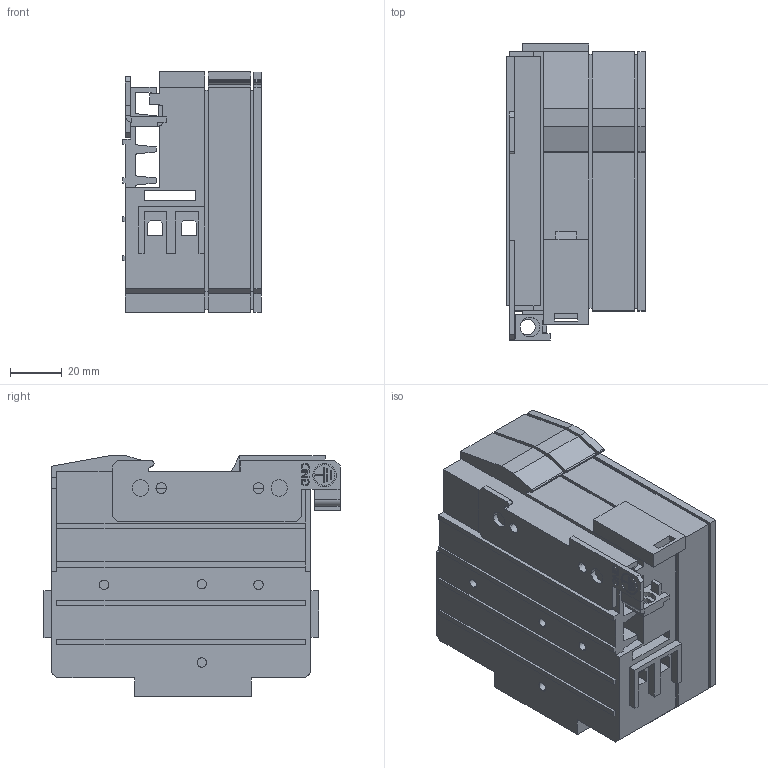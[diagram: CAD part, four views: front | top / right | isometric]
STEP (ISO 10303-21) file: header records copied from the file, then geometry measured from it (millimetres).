
FILE_DESCRIPTION((''),'2;1');
FILE_NAME('TE10_A_16A_IGES2','2012-01-03T',('chrisloe'),(''),'PRO/ENGINEER BY PARAMETRIC TECHNOLOGY CORPORATION, 2010180','PRO/ENGINEER BY PARAMETRIC TECHNOLOGY CORPORATION, 2010180','');
FILE_SCHEMA(('CONFIG_CONTROL_DESIGN'));
Length unit declared in the file: millimetre
Products named in the file (1): TE10_A_16A_IGES2
Bounding box: 53.6 x 114.3 x 92.7 mm (x, y, z)
Volume: 399046.7 mm3; surface area: 66218.5 mm2
Topology: 1 solids, 1 shells, 410 faces, 1130 edges, 743 vertices
Faces by surface type: plane 353, cylinder 49, cone 8
Entity records: 12918 total; most frequent: CARTESIAN_POINT 2283, ORIENTED_EDGE 2260, DIRECTION 2072, EDGE_CURVE 1130, VECTOR 1008, LINE 1008, VERTEX_POINT 743, AXIS2_PLACEMENT_3D 532
